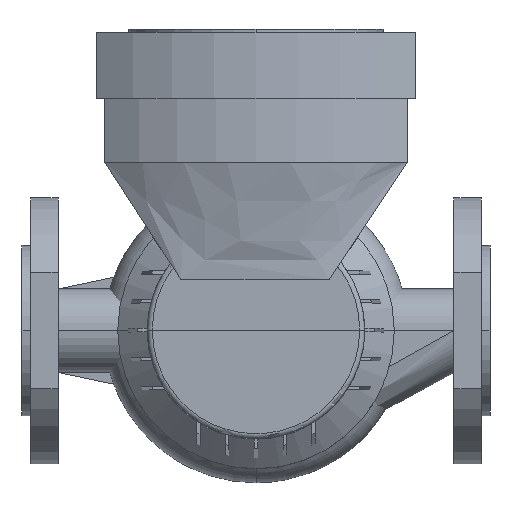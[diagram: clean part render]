
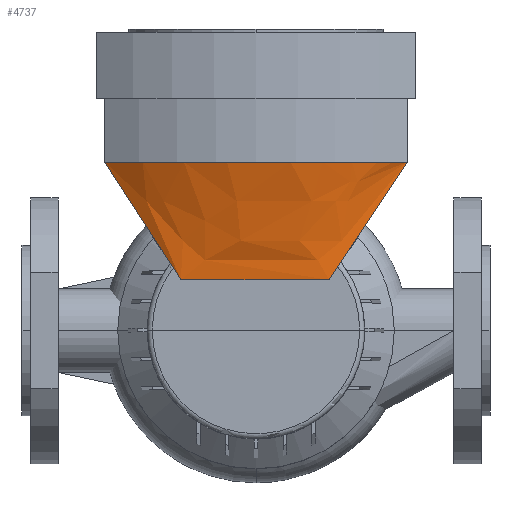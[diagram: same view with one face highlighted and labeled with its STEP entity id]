
A CAD part, top view. The second image highlights one B-rep face of the part: STEP entity #4737.
In plain terms, the highlighted free-form (B-spline) face has degree [3, 3] with [7, 4] control points.
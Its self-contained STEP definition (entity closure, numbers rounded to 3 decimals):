
#55=B_SPLINE_SURFACE_WITH_KNOTS('',3,3,((#8507,#8508,#8509,#8510),(#8511,
#8512,#8513,#8514),(#8515,#8516,#8517,#8518),(#8519,#8520,#8521,#8522),
(#8523,#8524,#8525,#8526),(#8527,#8528,#8529,#8530),(#8531,#8532,#8533,
#8534)),.UNSPECIFIED.,.F.,.F.,.F.,(4,1,1,1,4),(4,4),(0.,0.286,
0.571,0.857,1.),(0.,1.),.UNSPECIFIED.);
#366=FACE_OUTER_BOUND('',#637,.T.);
#637=EDGE_LOOP('',(#3963,#3964,#3965,#3966));
#1072=LINE('',#8475,#1574);
#1088=LINE('',#8506,#1590);
#1089=LINE('',#8548,#1591);
#1574=VECTOR('',#5951,304.8);
#1590=VECTOR('',#5979,304.8);
#1591=VECTOR('',#5980,304.8);
#1808=B_SPLINE_CURVE_WITH_KNOTS('',3,(#8535,#8536,#8537,#8538,#8539,#8540,
#8541,#8542,#8543,#8544,#8545,#8546,#8547),.UNSPECIFIED.,.F.,.F.,(4,3,3,
3,4),(-193.116,-165.528,-110.352,-55.176,
0.),.UNSPECIFIED.);
#2144=VERTEX_POINT('',#8471);
#2146=VERTEX_POINT('',#8474);
#2154=VERTEX_POINT('',#8502);
#2155=VERTEX_POINT('',#8504);
#2761=EDGE_CURVE('',#2146,#2144,#1072,.T.);
#2777=EDGE_CURVE('',#2154,#2155,#1088,.T.);
#2778=EDGE_CURVE('',#2154,#2144,#1808,.T.);
#2779=EDGE_CURVE('',#2146,#2155,#1089,.T.);
#3963=ORIENTED_EDGE('',*,*,#2778,.F.);
#3964=ORIENTED_EDGE('',*,*,#2777,.T.);
#3965=ORIENTED_EDGE('',*,*,#2779,.F.);
#3966=ORIENTED_EDGE('',*,*,#2761,.T.);
#4737=ADVANCED_FACE('',(#366),#55,.T.);
#5951=DIRECTION('',(0.546,0.824,-0.152));
#5979=DIRECTION('',(0.536,-0.83,0.153));
#5980=DIRECTION('',(-1.,0.,0.));
#8471=CARTESIAN_POINT('',(26459.071,-44880.739,226.911));
#8474=CARTESIAN_POINT('',(26412.364,-44951.239,239.919));
#8475=CARTESIAN_POINT('',(26412.364,-44951.239,239.919));
#8502=CARTESIAN_POINT('',(26278.162,-44880.739,226.911));
#8504=CARTESIAN_POINT('',(26323.69,-44951.239,239.919));
#8506=CARTESIAN_POINT('',(26278.162,-44880.739,226.911));
#8507=CARTESIAN_POINT('Ctrl Pts',(26459.071,-44880.739,226.911));
#8508=CARTESIAN_POINT('Ctrl Pts',(26443.502,-44904.239,231.247));
#8509=CARTESIAN_POINT('Ctrl Pts',(26427.933,-44927.739,235.583));
#8510=CARTESIAN_POINT('Ctrl Pts',(26412.364,-44951.239,239.919));
#8511=CARTESIAN_POINT('Ctrl Pts',(26444.053,-44880.739,237.466));
#8512=CARTESIAN_POINT('Ctrl Pts',(26430.673,-44904.239,238.282));
#8513=CARTESIAN_POINT('Ctrl Pts',(26417.299,-44927.739,239.103));
#8514=CARTESIAN_POINT('Ctrl Pts',(26403.919,-44951.239,239.919));
#8515=CARTESIAN_POINT('Ctrl Pts',(26410.286,-44880.739,253.259));
#8516=CARTESIAN_POINT('Ctrl Pts',(26402.534,-44904.239,248.812));
#8517=CARTESIAN_POINT('Ctrl Pts',(26394.781,-44927.739,244.367));
#8518=CARTESIAN_POINT('Ctrl Pts',(26387.029,-44951.239,239.919));
#8519=CARTESIAN_POINT('Ctrl Pts',(26354.58,-44880.739,258.153));
#8520=CARTESIAN_POINT('Ctrl Pts',(26356.95,-44904.239,252.075));
#8521=CARTESIAN_POINT('Ctrl Pts',(26359.323,-44927.739,245.997));
#8522=CARTESIAN_POINT('Ctrl Pts',(26361.693,-44951.239,239.919));
#8523=CARTESIAN_POINT('Ctrl Pts',(26309.581,-44880.739,246.056));
#8524=CARTESIAN_POINT('Ctrl Pts',(26319.915,-44904.239,244.01));
#8525=CARTESIAN_POINT('Ctrl Pts',(26330.247,-44927.739,241.966));
#8526=CARTESIAN_POINT('Ctrl Pts',(26340.581,-44951.239,239.919));
#8527=CARTESIAN_POINT('Ctrl Pts',(26285.671,-44880.739,232.188));
#8528=CARTESIAN_POINT('Ctrl Pts',(26299.751,-44904.239,234.767));
#8529=CARTESIAN_POINT('Ctrl Pts',(26313.833,-44927.739,237.341));
#8530=CARTESIAN_POINT('Ctrl Pts',(26327.913,-44951.239,239.919));
#8531=CARTESIAN_POINT('Ctrl Pts',(26278.162,-44880.739,226.911));
#8532=CARTESIAN_POINT('Ctrl Pts',(26293.338,-44904.239,231.247));
#8533=CARTESIAN_POINT('Ctrl Pts',(26308.514,-44927.739,235.583));
#8534=CARTESIAN_POINT('Ctrl Pts',(26323.69,-44951.239,239.919));
#8535=CARTESIAN_POINT('Ctrl Pts',(26278.162,-44880.739,226.911));
#8536=CARTESIAN_POINT('Ctrl Pts',(26285.671,-44880.739,232.188));
#8537=CARTESIAN_POINT('Ctrl Pts',(26293.641,-44880.739,236.811));
#8538=CARTESIAN_POINT('Ctrl Pts',(26301.955,-44880.739,240.699));
#8539=CARTESIAN_POINT('Ctrl Pts',(26318.581,-44880.739,248.475));
#8540=CARTESIAN_POINT('Ctrl Pts',(26336.581,-44880.739,253.314));
#8541=CARTESIAN_POINT('Ctrl Pts',(26354.865,-44880.739,254.918));
#8542=CARTESIAN_POINT('Ctrl Pts',(26373.149,-44880.739,256.522));
#8543=CARTESIAN_POINT('Ctrl Pts',(26391.718,-44880.739,254.89));
#8544=CARTESIAN_POINT('Ctrl Pts',(26409.444,-44880.739,250.127));
#8545=CARTESIAN_POINT('Ctrl Pts',(26427.17,-44880.739,245.363));
#8546=CARTESIAN_POINT('Ctrl Pts',(26444.053,-44880.739,237.466));
#8547=CARTESIAN_POINT('Ctrl Pts',(26459.071,-44880.739,226.911));
#8548=CARTESIAN_POINT('',(26412.364,-44951.239,239.919));
